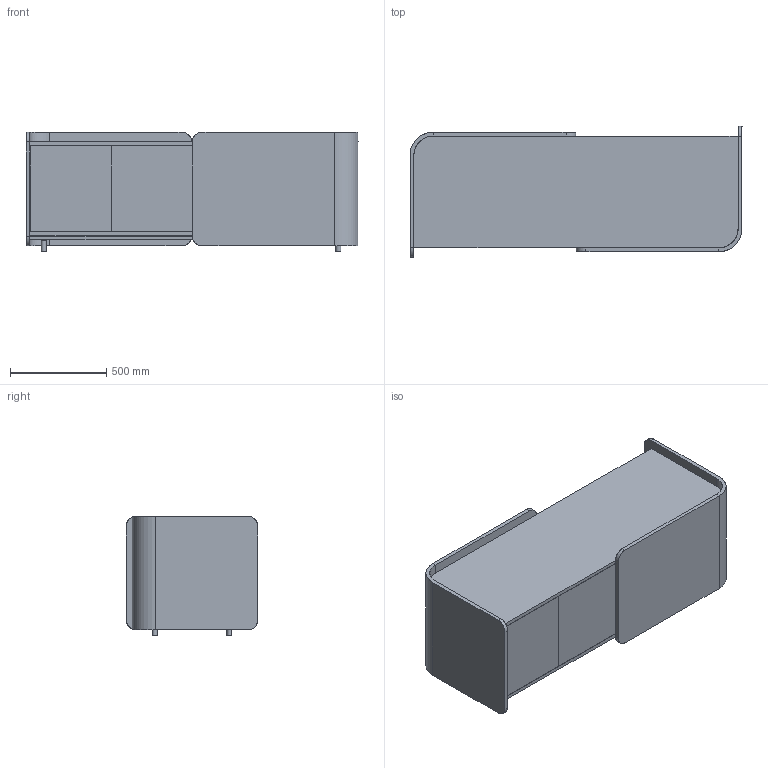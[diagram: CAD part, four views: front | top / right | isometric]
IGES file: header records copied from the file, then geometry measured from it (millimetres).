
Global section: file name: /Volumes/SERVER1/NUOVO/AZIENDE ITALIA/QUINTI/2025/DRESSCAB/math/DRESSCAB1.igs; native system: Rhinoceros ( Nov 21 2023 ); preprocessor: Trout Lake IGES 012 Nov 21 2023; date: 250430.114532; units: millimetre
Bounding box: 1724.46 x 680.7 x 620.21 mm (x, y, z)
Surface area: 12817949 mm2 (no closed solid volume)
Topology: 0 solids, 0 shells, 132 faces, 1016 edges, 1016 vertices
Faces by surface type: bspline 132
